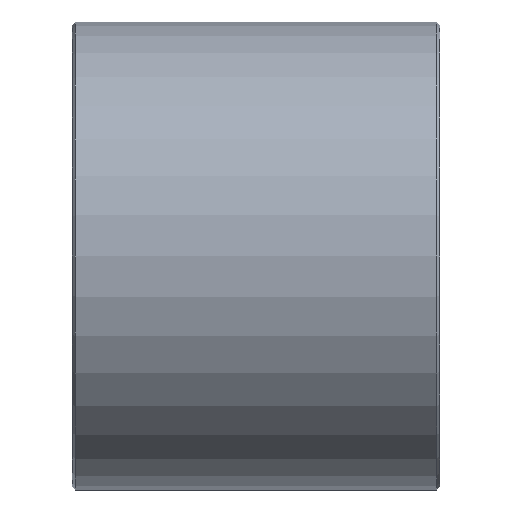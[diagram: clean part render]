
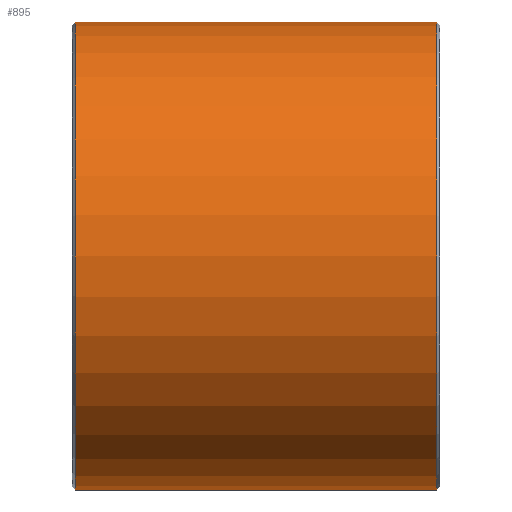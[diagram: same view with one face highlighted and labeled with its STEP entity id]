
A CAD part, left-side view. The second image highlights one B-rep face of the part: STEP entity #895.
In plain terms, the highlighted cylindrical face has radius 35 mm (diameter 70 mm), a partial arc.
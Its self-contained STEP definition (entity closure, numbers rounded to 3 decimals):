
#12 = EDGE_LOOP ( 'NONE', ( #71, #464, #1004, #1150 ) ) ;
#57 = LINE ( 'NONE', #188, #264 ) ;
#66 = CIRCLE ( 'NONE', #1230, 35. ) ;
#71 = ORIENTED_EDGE ( 'NONE', *, *, #306, .F. ) ;
#89 = AXIS2_PLACEMENT_3D ( 'NONE', #752, #1160, #959 ) ;
#160 = LINE ( 'NONE', #390, #1152 ) ;
#161 = VERTEX_POINT ( 'NONE', #1242 ) ;
#182 = DIRECTION ( 'NONE',  ( 0., 1., 0. ) ) ;
#188 = CARTESIAN_POINT ( 'NONE',  ( 0., 65.513, 35. ) ) ;
#251 = AXIS2_PLACEMENT_3D ( 'NONE', #932, #746, #445 ) ;
#264 = VECTOR ( 'NONE', #182, 1000. ) ;
#306 = EDGE_CURVE ( 'NONE', #161, #670, #160, .T. ) ;
#313 = CARTESIAN_POINT ( 'NONE',  ( 0., 1., 35. ) ) ;
#390 = CARTESIAN_POINT ( 'NONE',  ( 0., 65.513, -35. ) ) ;
#445 = DIRECTION ( 'NONE',  ( 0., 0., -1. ) ) ;
#464 = ORIENTED_EDGE ( 'NONE', *, *, #782, .T. ) ;
#465 = DIRECTION ( 'NONE',  ( 0., 0., 1. ) ) ;
#555 = DIRECTION ( 'NONE',  ( 0., -1., 0. ) ) ;
#568 = DIRECTION ( 'NONE',  ( 0., 1., 0. ) ) ;
#569 = CYLINDRICAL_SURFACE ( 'NONE', #89, 35. ) ;
#636 = VERTEX_POINT ( 'NONE', #313 ) ;
#670 = VERTEX_POINT ( 'NONE', #1117 ) ;
#746 = DIRECTION ( 'NONE',  ( 0., 1., 0. ) ) ;
#752 = CARTESIAN_POINT ( 'NONE',  ( 0., 65.513, 0. ) ) ;
#761 = VERTEX_POINT ( 'NONE', #1126 ) ;
#782 = EDGE_CURVE ( 'NONE', #161, #761, #820, .T. ) ;
#820 = CIRCLE ( 'NONE', #251, 35. ) ;
#888 = EDGE_CURVE ( 'NONE', #636, #670, #66, .T. ) ;
#895 = ADVANCED_FACE ( 'NONE', ( #1033 ), #569, .T. ) ;
#932 = CARTESIAN_POINT ( 'NONE',  ( 0., -53., 0. ) ) ;
#959 = DIRECTION ( 'NONE',  ( 0., 0., 1. ) ) ;
#1004 = ORIENTED_EDGE ( 'NONE', *, *, #1138, .T. ) ;
#1033 = FACE_OUTER_BOUND ( 'NONE', #12, .T. ) ;
#1117 = CARTESIAN_POINT ( 'NONE',  ( 0., 1., -35. ) ) ;
#1126 = CARTESIAN_POINT ( 'NONE',  ( 0., -53., 35. ) ) ;
#1138 = EDGE_CURVE ( 'NONE', #761, #636, #57, .T. ) ;
#1150 = ORIENTED_EDGE ( 'NONE', *, *, #888, .T. ) ;
#1152 = VECTOR ( 'NONE', #568, 1000. ) ;
#1160 = DIRECTION ( 'NONE',  ( 0., 1., 0. ) ) ;
#1230 = AXIS2_PLACEMENT_3D ( 'NONE', #1248, #555, #465 ) ;
#1242 = CARTESIAN_POINT ( 'NONE',  ( 0., -53., -35. ) ) ;
#1248 = CARTESIAN_POINT ( 'NONE',  ( 0., 1., 0. ) ) ;
